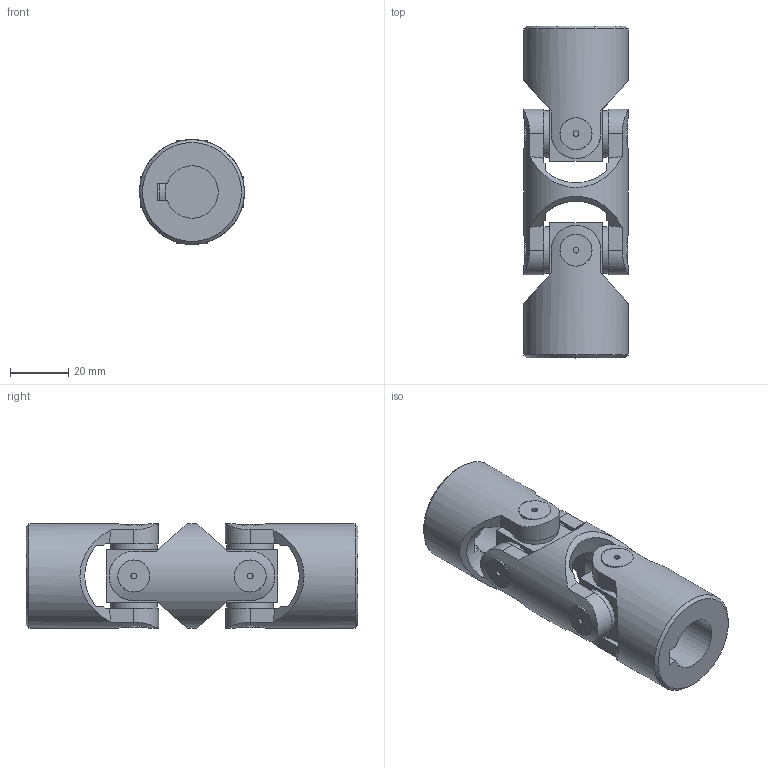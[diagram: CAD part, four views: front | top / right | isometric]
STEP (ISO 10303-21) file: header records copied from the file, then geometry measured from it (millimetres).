
FILE_DESCRIPTION(/* description */ (''),/* implementation_level */ '2;1');
FILE_NAME(/* name */ '\\SRV2016\Societa\Stefano\Disegni 3D\00Catalogo 3D\02Doppi GD-GBD\SG0D182C.stp',/* time_stamp */ '2021-11-23T12:23:37+01:00',/* author */ ('acquisti'),/* organization */ (''),/* preprocessor_version */ 'ST-DEVELOPER v15.6',/* originating_system */ 'Autodesk Inventor 2015',/* authorisation */ '');
FILE_SCHEMA (('AUTOMOTIVE_DESIGN { 1 0 10303 214 3 1 1 }'));
Length unit declared in the file: millimetre
Products named in the file (4): 2G MOD; 2G SFE; 2G MOC; Ø36_2GD-00_SG0D1800
Assembly tree (5 placements, depth 2):
  Ø36_2GD-00_SG0D1800
    2G MOD
    2G SFE  x2
    2G MOC  x2
Bounding box: 36 x 114 x 36 mm (x, y, z)
Volume: 73772.7 mm3; surface area: 26039.5 mm2
Topology: 5 solids, 5 shells, 167 faces, 399 edges, 262 vertices
Faces by surface type: plane 76, cylinder 65, cone 22, torus 4
Full cylindrical faces by diameter (mm): 2 x8, 16 x8, 20 x2, 36 x3
Entity records: 3930 total; most frequent: CARTESIAN_POINT 1380, ORIENTED_EDGE 512, DIRECTION 485, EDGE_CURVE 256, AXIS2_PLACEMENT_3D 214, VERTEX_POINT 180, EDGE_LOOP 152, FACE_OUTER_BOUND 115
